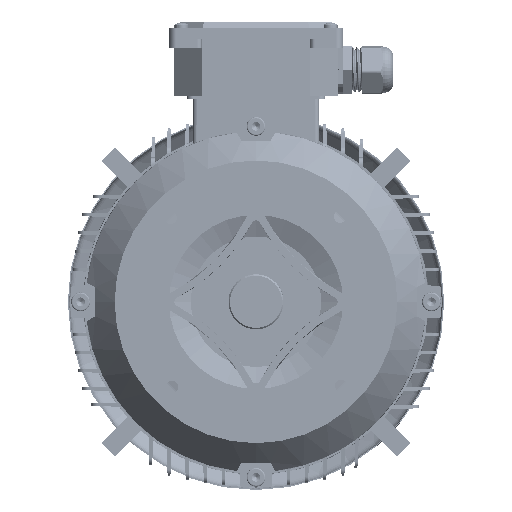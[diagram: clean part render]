
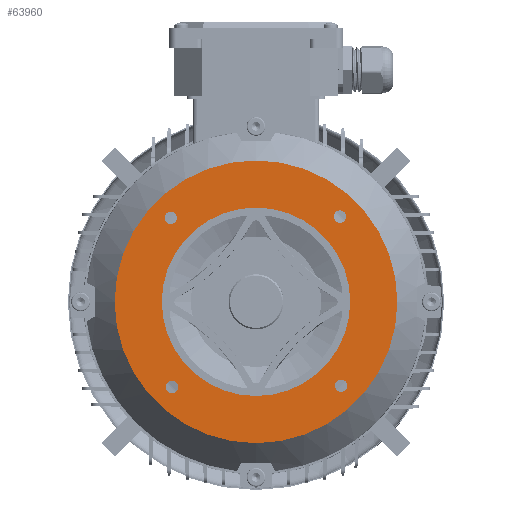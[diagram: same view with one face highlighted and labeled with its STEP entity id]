
A CAD part, front view. The second image highlights one B-rep face of the part: STEP entity #63960.
In plain terms, the highlighted planar face has unit normal (0, -1, 0).
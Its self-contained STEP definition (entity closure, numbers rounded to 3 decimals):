
#742 = CARTESIAN_POINT ( 'NONE',  ( 0., 3.5, 97.5 ) ) ;
#1238 = DIRECTION ( 'NONE',  ( 0., 0., -1. ) ) ;
#2976 = DIRECTION ( 'NONE',  ( 0., -1., 0. ) ) ;
#3737 = AXIS2_PLACEMENT_3D ( 'NONE', #108800, #45889, #119345 ) ;
#6545 = CIRCLE ( 'NONE', #73703, 4.25 ) ;
#7364 = CARTESIAN_POINT ( 'NONE',  ( -57.886, 3.5, -58.783 ) ) ;
#9784 = AXIS2_PLACEMENT_3D ( 'NONE', #65875, #2976, #76450 ) ;
#12964 = CIRCLE ( 'NONE', #29587, 4.25 ) ;
#13585 = DIRECTION ( 'NONE',  ( 0., -1., 0. ) ) ;
#14391 = VERTEX_POINT ( 'NONE', #107905 ) ;
#16148 = ORIENTED_EDGE ( 'NONE', *, *, #28717, .F. ) ;
#16891 = ORIENTED_EDGE ( 'NONE', *, *, #68402, .F. ) ;
#17725 = EDGE_CURVE ( 'NONE', #36445, #33265, #117083, .T. ) ;
#17953 = DIRECTION ( 'NONE',  ( 0., 0., -1. ) ) ;
#19396 = DIRECTION ( 'NONE',  ( 0., -1., 0. ) ) ;
#20109 = FACE_BOUND ( 'NONE', #82320, .T. ) ;
#20341 = CARTESIAN_POINT ( 'NONE',  ( 57.886, 3.5, 58.783 ) ) ;
#22129 = VERTEX_POINT ( 'NONE', #127796 ) ;
#22707 = CIRCLE ( 'NONE', #3737, 65. ) ;
#22938 = EDGE_CURVE ( 'NONE', #32924, #77542, #28969, .T. ) ;
#26660 = CARTESIAN_POINT ( 'NONE',  ( 58.783, 3.5, -57.886 ) ) ;
#26667 = FACE_BOUND ( 'NONE', #82530, .T. ) ;
#27665 = CARTESIAN_POINT ( 'NONE',  ( 0., 3.5, -65. ) ) ;
#28717 = EDGE_CURVE ( 'NONE', #132618, #22129, #12964, .T. ) ;
#28769 = ORIENTED_EDGE ( 'NONE', *, *, #64995, .T. ) ;
#28969 = CIRCLE ( 'NONE', #40411, 4.25 ) ;
#29587 = AXIS2_PLACEMENT_3D ( 'NONE', #48681, #122179, #59267 ) ;
#30235 = DIRECTION ( 'NONE',  ( 0., -1., 0. ) ) ;
#30764 = EDGE_CURVE ( 'NONE', #44172, #82515, #89625, .T. ) ;
#30869 = DIRECTION ( 'NONE',  ( 0., 0., -1. ) ) ;
#32924 = VERTEX_POINT ( 'NONE', #133512 ) ;
#33105 = CARTESIAN_POINT ( 'NONE',  ( 58.783, 3.5, -62.136 ) ) ;
#33265 = VERTEX_POINT ( 'NONE', #55366 ) ;
#33948 = ORIENTED_EDGE ( 'NONE', *, *, #89868, .F. ) ;
#34755 = EDGE_CURVE ( 'NONE', #14391, #73437, #85606, .T. ) ;
#36445 = VERTEX_POINT ( 'NONE', #51545 ) ;
#36647 = CIRCLE ( 'NONE', #83462, 4.25 ) ;
#37188 = DIRECTION ( 'NONE',  ( 0., 0., -1. ) ) ;
#40411 = AXIS2_PLACEMENT_3D ( 'NONE', #26660, #100102, #37188 ) ;
#40474 = ORIENTED_EDGE ( 'NONE', *, *, #30764, .T. ) ;
#42233 = VERTEX_POINT ( 'NONE', #90735 ) ;
#44172 = VERTEX_POINT ( 'NONE', #742 ) ;
#45889 = DIRECTION ( 'NONE',  ( 0., -1., 0. ) ) ;
#47327 = CARTESIAN_POINT ( 'NONE',  ( 0., 3.5, 0. ) ) ;
#47952 = FACE_BOUND ( 'NONE', #124818, .T. ) ;
#48545 = DIRECTION ( 'NONE',  ( 0., -1., 0. ) ) ;
#48681 = CARTESIAN_POINT ( 'NONE',  ( -58.783, 3.5, 57.886 ) ) ;
#50845 = EDGE_CURVE ( 'NONE', #59564, #42233, #22707, .T. ) ;
#51335 = AXIS2_PLACEMENT_3D ( 'NONE', #76437, #13585, #87013 ) ;
#51545 = CARTESIAN_POINT ( 'NONE',  ( -57.886, 3.5, -54.533 ) ) ;
#53298 = CARTESIAN_POINT ( 'NONE',  ( 0., 3.5, -97.5 ) ) ;
#55366 = CARTESIAN_POINT ( 'NONE',  ( -57.886, 3.5, -63.033 ) ) ;
#57902 = DIRECTION ( 'NONE',  ( 0., 0., -1. ) ) ;
#58210 = CARTESIAN_POINT ( 'NONE',  ( -58.783, 3.5, 57.886 ) ) ;
#59267 = DIRECTION ( 'NONE',  ( 0., 0., -1. ) ) ;
#59564 = VERTEX_POINT ( 'NONE', #27665 ) ;
#60437 = AXIS2_PLACEMENT_3D ( 'NONE', #47327, #120802, #57902 ) ;
#60535 = CIRCLE ( 'NONE', #51335, 4.25 ) ;
#62776 = ORIENTED_EDGE ( 'NONE', *, *, #77761, .F. ) ;
#63960 = ADVANCED_FACE ( 'NONE', ( #20109, #26667, #131716, #47952, #128429, #100566 ), #72005, .T. ) ;
#64107 = DIRECTION ( 'NONE',  ( 0., -1., 0. ) ) ;
#64995 = EDGE_CURVE ( 'NONE', #82515, #44172, #110145, .T. ) ;
#65091 = ORIENTED_EDGE ( 'NONE', *, *, #101966, .F. ) ;
#65875 = CARTESIAN_POINT ( 'NONE',  ( 58.783, 3.5, -57.886 ) ) ;
#68402 = EDGE_CURVE ( 'NONE', #42233, #59564, #95792, .T. ) ;
#68789 = DIRECTION ( 'NONE',  ( 0., 0., -1. ) ) ;
#72005 = PLANE ( 'NONE',  #96440 ) ;
#73437 = VERTEX_POINT ( 'NONE', #76103 ) ;
#73703 = AXIS2_PLACEMENT_3D ( 'NONE', #58210, #131659, #68789 ) ;
#74815 = EDGE_CURVE ( 'NONE', #33265, #36445, #36647, .T. ) ;
#76103 = CARTESIAN_POINT ( 'NONE',  ( 57.886, 3.5, 63.033 ) ) ;
#76437 = CARTESIAN_POINT ( 'NONE',  ( 57.886, 3.5, 58.783 ) ) ;
#76450 = DIRECTION ( 'NONE',  ( 0., 0., -1. ) ) ;
#77542 = VERTEX_POINT ( 'NONE', #33105 ) ;
#77761 = EDGE_CURVE ( 'NONE', #22129, #132618, #6545, .T. ) ;
#80057 = AXIS2_PLACEMENT_3D ( 'NONE', #126991, #64107, #1238 ) ;
#80878 = DIRECTION ( 'NONE',  ( 0., -1., 0. ) ) ;
#82294 = CARTESIAN_POINT ( 'NONE',  ( 0., 3.5, 0. ) ) ;
#82320 = EDGE_LOOP ( 'NONE', ( #16148, #62776 ) ) ;
#82515 = VERTEX_POINT ( 'NONE', #53298 ) ;
#82530 = EDGE_LOOP ( 'NONE', ( #103711, #65091 ) ) ;
#82838 = ORIENTED_EDGE ( 'NONE', *, *, #74815, .F. ) ;
#83462 = AXIS2_PLACEMENT_3D ( 'NONE', #7364, #80878, #17953 ) ;
#85606 = CIRCLE ( 'NONE', #101370, 4.25 ) ;
#87013 = DIRECTION ( 'NONE',  ( 0., 0., -1. ) ) ;
#89625 = CIRCLE ( 'NONE', #130846, 97.5 ) ;
#89868 = EDGE_CURVE ( 'NONE', #77542, #32924, #102729, .T. ) ;
#90735 = CARTESIAN_POINT ( 'NONE',  ( 0., 3.5, 65. ) ) ;
#91459 = EDGE_LOOP ( 'NONE', ( #33948, #106377 ) ) ;
#92798 = DIRECTION ( 'NONE',  ( 0., 0., -1. ) ) ;
#93121 = CARTESIAN_POINT ( 'NONE',  ( 65., 3.5, 0. ) ) ;
#93313 = ORIENTED_EDGE ( 'NONE', *, *, #50845, .F. ) ;
#93779 = DIRECTION ( 'NONE',  ( 0., -1., 0. ) ) ;
#95792 = CIRCLE ( 'NONE', #120550, 65. ) ;
#96440 = AXIS2_PLACEMENT_3D ( 'NONE', #93121, #30235, #103721 ) ;
#100102 = DIRECTION ( 'NONE',  ( 0., -1., 0. ) ) ;
#100566 = FACE_BOUND ( 'NONE', #106143, .T. ) ;
#101370 = AXIS2_PLACEMENT_3D ( 'NONE', #20341, #93779, #30869 ) ;
#101966 = EDGE_CURVE ( 'NONE', #73437, #14391, #60535, .T. ) ;
#102729 = CIRCLE ( 'NONE', #9784, 4.25 ) ;
#103711 = ORIENTED_EDGE ( 'NONE', *, *, #34755, .F. ) ;
#103721 = DIRECTION ( 'NONE',  ( 0., 0., -1. ) ) ;
#106143 = EDGE_LOOP ( 'NONE', ( #93313, #16891 ) ) ;
#106377 = ORIENTED_EDGE ( 'NONE', *, *, #22938, .F. ) ;
#107905 = CARTESIAN_POINT ( 'NONE',  ( 57.886, 3.5, 54.533 ) ) ;
#108800 = CARTESIAN_POINT ( 'NONE',  ( 0., 3.5, 0. ) ) ;
#110145 = CIRCLE ( 'NONE', #60437, 97.5 ) ;
#111475 = CARTESIAN_POINT ( 'NONE',  ( 0., 3.5, 0. ) ) ;
#111648 = CARTESIAN_POINT ( 'NONE',  ( -58.783, 3.5, 53.636 ) ) ;
#117083 = CIRCLE ( 'NONE', #80057, 4.25 ) ;
#119345 = DIRECTION ( 'NONE',  ( 0., 0., -1. ) ) ;
#120550 = AXIS2_PLACEMENT_3D ( 'NONE', #82294, #19396, #92798 ) ;
#120802 = DIRECTION ( 'NONE',  ( 0., -1., 0. ) ) ;
#121764 = EDGE_LOOP ( 'NONE', ( #40474, #28769 ) ) ;
#122050 = DIRECTION ( 'NONE',  ( 0., 0., -1. ) ) ;
#122179 = DIRECTION ( 'NONE',  ( 0., -1., 0. ) ) ;
#123655 = ORIENTED_EDGE ( 'NONE', *, *, #17725, .F. ) ;
#124818 = EDGE_LOOP ( 'NONE', ( #82838, #123655 ) ) ;
#126991 = CARTESIAN_POINT ( 'NONE',  ( -57.886, 3.5, -58.783 ) ) ;
#127796 = CARTESIAN_POINT ( 'NONE',  ( -58.783, 3.5, 62.136 ) ) ;
#128429 = FACE_OUTER_BOUND ( 'NONE', #121764, .T. ) ;
#130846 = AXIS2_PLACEMENT_3D ( 'NONE', #111475, #48545, #122050 ) ;
#131659 = DIRECTION ( 'NONE',  ( 0., -1., 0. ) ) ;
#131716 = FACE_BOUND ( 'NONE', #91459, .T. ) ;
#132618 = VERTEX_POINT ( 'NONE', #111648 ) ;
#133512 = CARTESIAN_POINT ( 'NONE',  ( 58.783, 3.5, -53.636 ) ) ;
